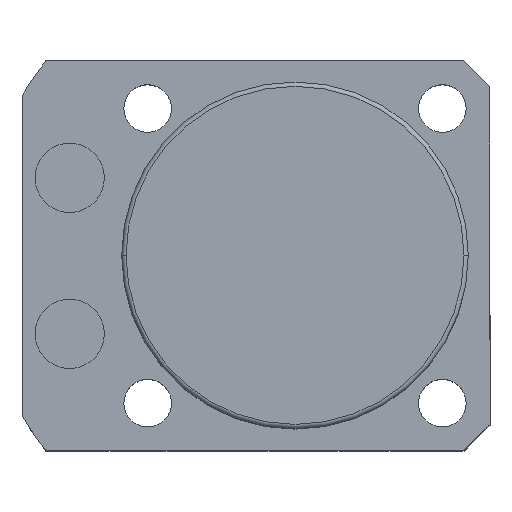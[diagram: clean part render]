
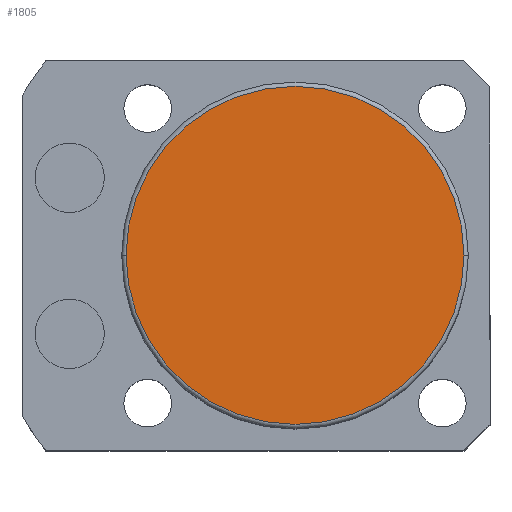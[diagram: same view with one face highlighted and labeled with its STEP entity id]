
A CAD part, top view. The second image highlights one B-rep face of the part: STEP entity #1805.
In plain terms, the highlighted planar face has unit normal (0, 0, 1).
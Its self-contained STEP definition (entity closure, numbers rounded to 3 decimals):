
#186 = AXIS2_PLACEMENT_3D ( 'NONE', #934, #734, #2185 ) ;
#187 = ORIENTED_EDGE ( 'NONE', *, *, #1667, .T. ) ;
#224 = DIRECTION ( 'NONE',  ( 1., 0., 0. ) ) ;
#387 = VERTEX_POINT ( 'NONE', #647 ) ;
#436 = CIRCLE ( 'NONE', #519, 19.5 ) ;
#450 = CARTESIAN_POINT ( 'NONE',  ( 19.5, 0., 43.5 ) ) ;
#468 = CIRCLE ( 'NONE', #186, 19.5 ) ;
#519 = AXIS2_PLACEMENT_3D ( 'NONE', #793, #1871, #224 ) ;
#530 = PLANE ( 'NONE',  #1960 ) ;
#540 = DIRECTION ( 'NONE',  ( 0., 0., 1. ) ) ;
#630 = FACE_OUTER_BOUND ( 'NONE', #937, .T. ) ;
#647 = CARTESIAN_POINT ( 'NONE',  ( -19.5, 0., 43.5 ) ) ;
#680 = VERTEX_POINT ( 'NONE', #450 ) ;
#734 = DIRECTION ( 'NONE',  ( 0., 0., 1. ) ) ;
#774 = EDGE_CURVE ( 'NONE', #387, #680, #468, .T. ) ;
#793 = CARTESIAN_POINT ( 'NONE',  ( 0., 0., 43.5 ) ) ;
#934 = CARTESIAN_POINT ( 'NONE',  ( 0., 0., 43.5 ) ) ;
#937 = EDGE_LOOP ( 'NONE', ( #187, #1765 ) ) ;
#1667 = EDGE_CURVE ( 'NONE', #680, #387, #436, .T. ) ;
#1765 = ORIENTED_EDGE ( 'NONE', *, *, #774, .T. ) ;
#1788 = DIRECTION ( 'NONE',  ( 1., 0., 0. ) ) ;
#1805 = ADVANCED_FACE ( 'NONE', ( #630 ), #530, .T. ) ;
#1809 = CARTESIAN_POINT ( 'NONE',  ( 0., 0., 43.5 ) ) ;
#1871 = DIRECTION ( 'NONE',  ( 0., 0., 1. ) ) ;
#1960 = AXIS2_PLACEMENT_3D ( 'NONE', #1809, #540, #1788 ) ;
#2185 = DIRECTION ( 'NONE',  ( 1., 0., 0. ) ) ;
